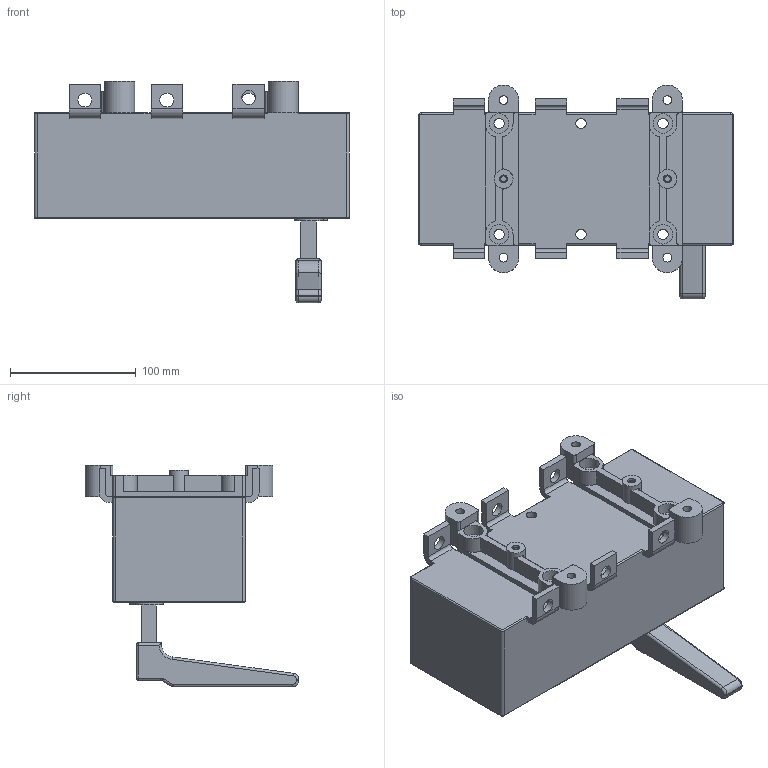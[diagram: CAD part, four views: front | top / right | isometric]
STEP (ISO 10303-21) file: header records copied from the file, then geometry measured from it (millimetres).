
FILE_DESCRIPTION(/* description */ (''),/* implementation_level */ '2;1');
FILE_NAME(/* name */ 'RA630 P3 C-R.stp',/* time_stamp */ '2021-08-19T08:51:02+02:00',/* author */ (''),/* organization */ (''),/* preprocessor_version */ 'ST-DEVELOPER v18.1',/* originating_system */ 'SIEMENS PLM Software NX 1965',/* authorisation */ '');
FILE_SCHEMA (('AUTOMOTIVE_DESIGN { 1 0 10303 214 3 1 1 1 }'));
Length unit declared in the file: millimetre
Products named in the file (1): RA630 P3 C-R_stp
Bounding box: 250 x 169.5 x 176 mm (x, y, z)
Volume: 2332852.7 mm3; surface area: 172051.1 mm2
Topology: 1 solids, 1 shells, 254 faces, 663 edges, 420 vertices
Faces by surface type: cylinder 121, plane 111, torus 13, sphere 6, bspline 3
Full cylindrical faces by diameter (mm): 4.8 x2, 6.2 x2, 7 x4, 8.2 x6, 11 x6, 14 x4, 15 x2, 15.5 x4
Entity records: 7730 total; most frequent: DIRECTION 1385, CARTESIAN_POINT 1371, ORIENTED_EDGE 1246, EDGE_CURVE 623, AXIS2_PLACEMENT_3D 514, VERTEX_POINT 416, LINE 357, VECTOR 357
